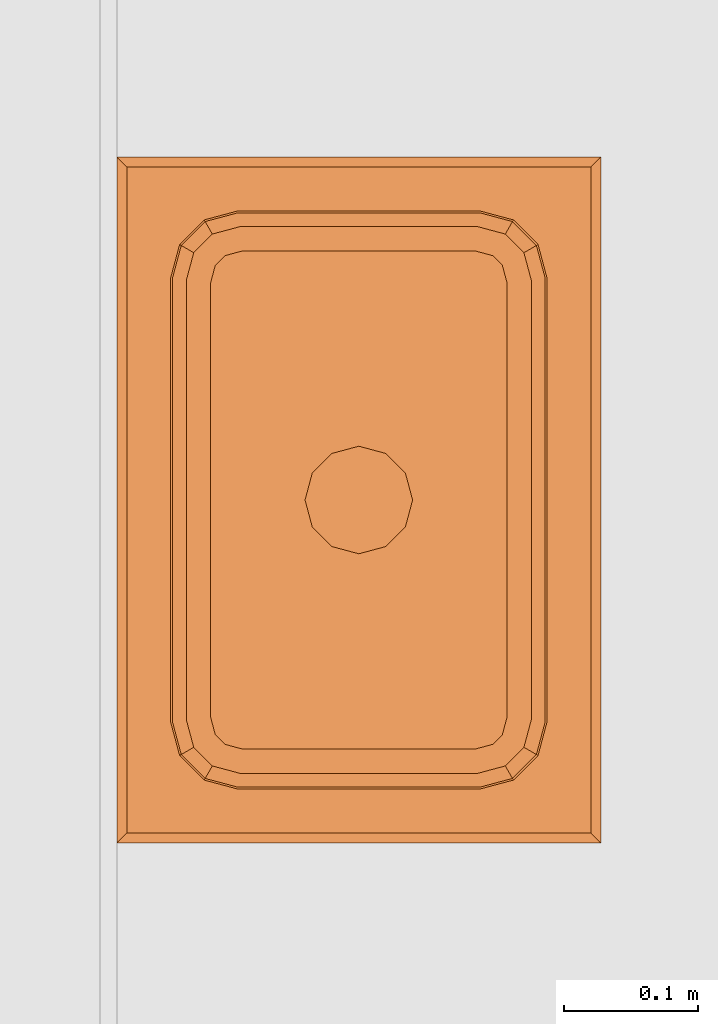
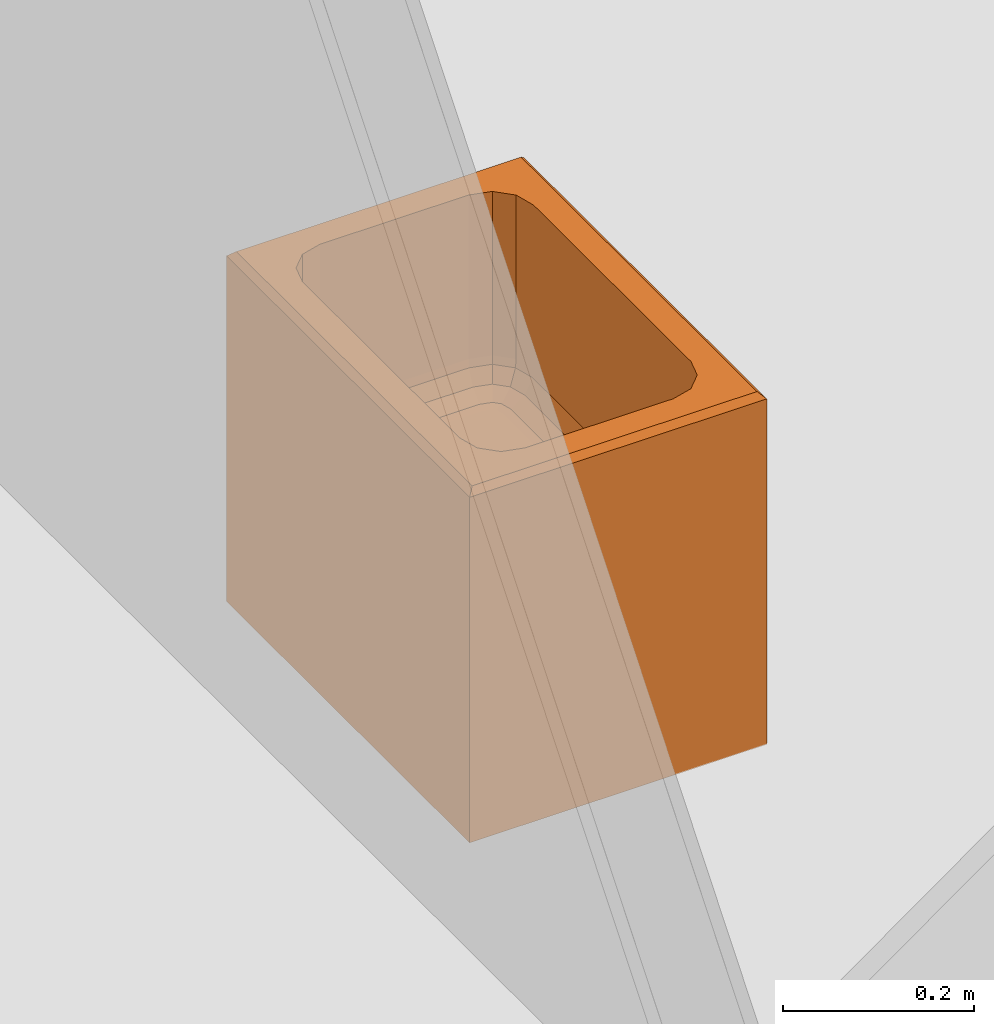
# One storey, part 118 of 167: 1 proxy.
"""IFC2X3 building model written with IfcOpenShell, lengths in millimetres."""

from ifc_helpers import new_model, entity, si_unit, converted_unit, derived_unit, money_unit, direction, frame, origin_with_axes, place, context, subcontext, project, spatial, faceted_brep, source, transform, mapped, type_object, type_shapes, element, save


model = new_model("IFC2X3")

# Units and contexts
model_context = context("Model", 3, precision=0.01, world=origin_with_axes(), true_north=direction((0.0, 1.0)))
plan_context = context("Plan", 3, precision=0.01, world=origin_with_axes(), true_north=direction((0.0, 1.0)))
body_context = subcontext(model_context, "Body", "Model", "MODEL_VIEW")
ifc_project = project(units=[si_unit("LENGTHUNIT", "METRE", prefix="MILLI"), si_unit("AREAUNIT", "SQUARE_METRE"), si_unit("VOLUMEUNIT", "CUBIC_METRE"), converted_unit("PLANEANGLEUNIT", "DEGREE", entity("IfcPlaneAngleMeasure", 0.0174532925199), si_unit("PLANEANGLEUNIT", "RADIAN"), dimensions=[0, 0, 0, 0, 0, 0, 0]), si_unit("SOLIDANGLEUNIT", "STERADIAN"), money_unit("EUR"), converted_unit("TIMEUNIT", "Year", entity("IfcTimeMeasure", 31556926.0), si_unit("TIMEUNIT", "SECOND"), dimensions=[0, 0, 1, 0, 0, 0, 0]), si_unit("MASSUNIT", "GRAM", prefix="KILO"), si_unit("THERMODYNAMICTEMPERATUREUNIT", "DEGREE_CELSIUS"), si_unit("LUMINOUSINTENSITYUNIT", "LUMEN"), si_unit("ENERGYUNIT", "JOULE", prefix="MEGA"), derived_unit("THERMALCONDUCTANCEUNIT", [(si_unit("POWERUNIT", "WATT"), 1), (si_unit("LENGTHUNIT", "METRE"), -1), (si_unit("THERMODYNAMICTEMPERATUREUNIT", "KELVIN"), -1)]), derived_unit("SPECIFICHEATCAPACITYUNIT", [(si_unit("ENERGYUNIT", "JOULE"), 1), (si_unit("MASSUNIT", "GRAM", prefix="KILO"), -1), (si_unit("THERMODYNAMICTEMPERATUREUNIT", "KELVIN"), -1)]), derived_unit("MASSDENSITYUNIT", [(si_unit("MASSUNIT", "GRAM", prefix="KILO"), 1), (si_unit("VOLUMEUNIT", "CUBIC_METRE"), -1)])], contexts=[model_context, plan_context])

# Site, building, storey
site_placement = place(None, origin_with_axes())
site = spatial("IfcSite", under=ifc_project, at=site_placement, Name="Site", CompositionType="ELEMENT")
building_placement = place(site_placement, origin_with_axes())
building = spatial("IfcBuilding", under=site, at=building_placement, Name="Naam gebouw", CompositionType="ELEMENT")
storey_placement = place(building_placement, origin_with_axes())
storey = spatial("IfcBuildingStorey", under=building, at=storey_placement, Name="Begane grond", CompositionType="ELEMENT", Elevation=0.0)

# Proxy
building_element_proxy_type = type_object("IfcBuildingElementProxyType", Name="Uitstortgootsteen 24", PredefinedType="NOTDEFINED")
shared_shape = source(origin_with_axes(), body_context, "Body", "Brep", [
    faceted_brep([(172.438247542, -85.7055238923, 199.999999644), (169.29447672, -82.5617519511, 199.999999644), (159.733901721, -80.0000052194, 199.999999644), (-159.733901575, -80.0000052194, 199.999999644), (-169.294476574, -82.5617519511, 199.999999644), (-172.438247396, -85.7055238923, 199.999999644), (-174.999997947, -95.2661013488, 199.999999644), (-174.999997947, -264.733896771, 199.999999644), (-172.438247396, -274.29447672, 199.999999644), (-169.294476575, -277.438247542, 199.999999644), (-159.733896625, -279.999998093, 199.999999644), (159.733896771, -279.999998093, 199.999999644), (169.29447672, -277.438247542, 199.999999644), (172.438247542, -274.29447672, 199.999999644), (174.999998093, -264.733896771, 199.999999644), (174.999998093, -95.2661013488, 199.999999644), (-35.0, -119.378221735, 200.0), (0.0, -110.0, 200.0), (35.0, -119.378221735, 200.0), (60.6217782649, -145.0, 200.0), (70.0, -180.0, 200.0), (60.6217782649, -215.0, 200.0), (35.0, -240.621778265, 200.0), (0.0, -250.0, 200.0), (-35.0, -240.621778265, 200.0), (-60.6217782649, -215.0, 200.0), (-70.0, -180.0, 200.0), (-60.6217782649, -145.0, 200.0), (181.720281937, -80.3465390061, 201.362966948), (174.653462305, -73.2797168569, 201.362966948), (161.096868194, -69.6472407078, 201.362966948), (-161.096868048, -69.6472407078, 201.362966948), (-174.653462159, -73.2797168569, 201.362966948), (-181.720281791, -80.3465390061, 201.362966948), (-185.352762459, -93.9031332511, 201.362966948), (-185.352762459, -266.096864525, 201.362966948), (-181.720281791, -279.653462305, 201.362966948), (-174.653462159, -286.720281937, 201.362966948), (-161.096864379, -290.352762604, 201.362966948), (161.096864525, -290.352762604, 201.362966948), (174.653462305, -286.720281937, 201.362966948), (181.720281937, -279.653462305, 201.362966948), (185.352762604, -266.096864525, 201.362966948), (185.352762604, -93.9031332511, 201.362966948), (-20.0, -145.358983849, 190.0), (0.0, -140.0, 190.0), (20.0, -145.358983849, 190.0), (34.6410161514, -160.0, 190.0), (40.0, -180.0, 190.0), (34.6410161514, -200.0, 190.0), (20.0, -214.641016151, 190.0), (0.0, -220.0, 190.0), (-20.0, -214.641016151, 190.0), (-34.6410161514, -200.0, 190.0), (-40.0, -180.0, 190.0), (-34.6410161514, -160.0, 190.0), (197.797232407, -71.06450762, 211.715728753), (183.935494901, -57.2027651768, 211.715728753), (163.457594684, -51.7157318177, 211.715728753), (-163.457594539, -51.7157318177, 211.715728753), (-183.935494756, -57.2027651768, 211.715728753), (-197.797232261, -71.06450762, 211.715728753), (-203.284271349, -91.5424039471, 211.715728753), (-203.284271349, -268.457593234, 211.715728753), (-197.797232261, -288.935494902, 211.715728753), (-183.935494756, -302.797232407, 211.715728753), (-163.457593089, -308.284271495, 211.715728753), (163.457593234, -308.284271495, 211.715728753), (183.935494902, -302.797232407, 211.715728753), (197.797232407, -288.935494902, 211.715728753), (203.284271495, -268.457593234, 211.715728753), (203.284271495, -91.5424039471, 211.715728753), (207.07926454, -65.7055240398, 229.647238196), (189.29447918, -47.9207323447, 229.647238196), (164.820560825, -41.3629698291, 229.647238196), (-164.82056068, -41.3629698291, 229.647238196), (-189.294479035, -47.9207323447, 229.647238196), (-207.079264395, -65.7055240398, 229.647238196), (-213.637033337, -90.1794361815, 229.647238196), (-213.637033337, -269.820560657, 229.647238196), (-207.079264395, -294.29447918, 229.647238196), (-189.294479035, -312.07926454, 229.647238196), (-164.820560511, -318.637033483, 229.647238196), (164.820560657, -318.637033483, 229.647238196), (189.29447918, -312.07926454, 229.647238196), (207.07926454, -294.29447918, 229.647238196), (213.637033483, -269.820560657, 229.647238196), (213.637033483, -90.1794361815, 229.647238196), (208.301267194, -65.0000005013, 240.0), (190.000002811, -46.6987295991, 240.0), (164.999998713, -40.0000029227, 240.0), (-164.999998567, -40.0000029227, 240.0), (-190.000002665, -46.6987295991, 240.0), (-208.301267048, -65.0000005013, 240.0), (-215.000000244, -89.9999980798, 240.0), (-215.000000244, -269.999998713, 240.0), (-208.301267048, -295.000002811, 240.0), (-190.000002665, -313.301267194, 240.0), (-164.999998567, -320.00000039, 240.0), (164.999998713, -320.00000039, 240.0), (190.000002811, -313.301267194, 240.0), (208.301267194, -295.000002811, 240.0), (215.00000039, -269.999998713, 240.0), (215.00000039, -89.9999980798, 240.0), (208.301267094, -65.0000004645, 450.000000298), (190.000002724, -46.6987296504, 450.000000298), (164.999998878, -40.0000030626, 450.000000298), (-164.999998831, -40.0000030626, 450.000000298), (-190.000002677, -46.6987296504, 450.000000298), (-208.301267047, -65.0000004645, 450.000000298), (-215.000000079, -89.9999978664, 450.000000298), (-215.000000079, -269.999998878, 450.000000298), (-208.301267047, -295.000002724, 450.000000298), (-190.000002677, -313.301267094, 450.000000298), (-164.999998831, -320.000000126, 450.000000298), (164.999998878, -320.000000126, 450.000000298), (190.000002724, -313.301267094, 450.000000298), (208.301267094, -295.000002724, 450.000000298), (215.000000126, -269.999998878, 450.000000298), (215.000000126, -89.9999978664, 450.000000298), (-247.50000002, -7.50000035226, 450.000000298), (-247.50000002, -352.500000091, 450.000000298), (247.500000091, -352.500000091, 450.000000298), (247.500000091, -7.50000035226, 450.000000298), (-255.000000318, -5.42402234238e-08, 442.5), (-255.000000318, -360.00000039, 442.5), (255.00000039, -360.00000039, 442.5), (255.00000039, -5.42402234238e-08, 442.5), (-255.0, 0.0, 100.0), (-255.0, -360.0, 100.0), (255.0, -360.0, 100.0), (255.0, 0.0, 100.0)], [[[0, 1, 2, 3, 4, 5, 6, 7, 8, 9, 10, 11, 12, 13, 14, 15], [16, 17, 18, 19, 20, 21, 22, 23, 24, 25, 26, 27]], [[1, 0, 28, 29]], [[2, 1, 29, 30]], [[3, 2, 30, 31]], [[4, 3, 31, 32]], [[5, 4, 32, 33]], [[6, 5, 33, 34]], [[7, 6, 34, 35]], [[8, 7, 35, 36]], [[9, 8, 36, 37]], [[10, 9, 37, 38]], [[11, 10, 38, 39]], [[12, 11, 39, 40]], [[13, 12, 40, 41]], [[14, 13, 41, 42]], [[15, 14, 42, 43]], [[0, 15, 43, 28]], [[16, 44, 45, 17]], [[17, 45, 46, 18]], [[18, 46, 47, 19]], [[19, 47, 48, 20]], [[20, 48, 49, 21]], [[21, 49, 50, 22]], [[22, 50, 51, 23]], [[23, 51, 52, 24]], [[24, 52, 53, 25]], [[25, 53, 54, 26]], [[26, 54, 55, 27]], [[27, 55, 44, 16]], [[29, 28, 56, 57]], [[30, 29, 57, 58]], [[31, 30, 58, 59]], [[32, 31, 59, 60]], [[33, 32, 60, 61]], [[34, 33, 61, 62]], [[35, 34, 62, 63]], [[36, 35, 63, 64]], [[37, 36, 64, 65]], [[38, 37, 65, 66]], [[39, 38, 66, 67]], [[40, 39, 67, 68]], [[41, 40, 68, 69]], [[42, 41, 69, 70]], [[43, 42, 70, 71]], [[28, 43, 71, 56]], [[53, 52, 51, 50, 49, 48, 47, 46, 45, 44, 55, 54]], [[57, 56, 72, 73]], [[58, 57, 73, 74]], [[59, 58, 74, 75]], [[60, 59, 75, 76]], [[61, 60, 76, 77]], [[62, 61, 77, 78]], [[63, 62, 78, 79]], [[64, 63, 79, 80]], [[65, 64, 80, 81]], [[66, 65, 81, 82]], [[67, 66, 82, 83]], [[68, 67, 83, 84]], [[69, 68, 84, 85]], [[70, 69, 85, 86]], [[71, 70, 86, 87]], [[56, 71, 87, 72]], [[73, 72, 88, 89]], [[74, 73, 89, 90]], [[75, 74, 90, 91]], [[76, 75, 91, 92]], [[77, 76, 92, 93]], [[78, 77, 93, 94]], [[79, 78, 94, 95]], [[80, 79, 95, 96]], [[81, 80, 96, 97]], [[82, 81, 97, 98]], [[83, 82, 98, 99]], [[84, 83, 99, 100]], [[85, 84, 100, 101]], [[86, 85, 101, 102]], [[87, 86, 102, 103]], [[72, 87, 103, 88]], [[89, 88, 104, 105]], [[90, 89, 105, 106]], [[91, 90, 106, 107]], [[92, 91, 107, 108]], [[93, 92, 108, 109]], [[94, 93, 109, 110]], [[95, 94, 110, 111]], [[96, 95, 111, 112]], [[97, 96, 112, 113]], [[98, 97, 113, 114]], [[99, 98, 114, 115]], [[100, 99, 115, 116]], [[101, 100, 116, 117]], [[102, 101, 117, 118]], [[103, 102, 118, 119]], [[88, 103, 119, 104]], [[120, 121, 122, 123], [107, 106, 105, 104, 119, 118, 117, 116, 115, 114, 113, 112, 111, 110, 109, 108]], [[120, 124, 125, 121]], [[121, 125, 126, 122]], [[122, 126, 127, 123]], [[123, 127, 124, 120]], [[124, 128, 129, 125]], [[125, 129, 130, 126]], [[126, 130, 131, 127]], [[127, 131, 128, 124]], [[129, 128, 131, 130]]]),
    faceted_brep([(255.0, 0.0, 0.0), (255.0, 0.0, 100.0), (255.0, -360.0, 100.0), (255.0, -360.0, 0.0), (-255.0, 0.0, 0.0), (-255.0, 0.0, 100.0), (-255.0, -360.0, 100.0), (225.0, -30.0, 100.0), (225.0, -330.0, 100.0), (-225.0, -330.0, 100.0), (-225.0, -30.0, 100.0), (-255.0, -360.0, 0.0), (225.0, -30.0, 0.0), (-225.0, -30.0, 0.0), (-225.0, -330.0, 0.0), (225.0, -330.0, 0.0)], [[[0, 1, 2, 3]], [[4, 5, 1, 0]], [[1, 5, 6, 2], [7, 8, 9, 10]], [[3, 2, 6, 11]], [[0, 3, 11, 4], [12, 13, 14, 15]], [[11, 6, 5, 4]], [[15, 8, 7, 12]], [[14, 9, 8, 15]], [[13, 10, 9, 14]], [[12, 7, 10, 13]]]),
    faceted_brep([(-34.6410161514, -200.0, 190.0), (-40.0, -180.0, 190.0), (-34.6410161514, -160.0, 190.0), (-20.0, -145.358983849, 190.0), (0.0, -140.0, 190.0), (20.0, -145.358983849, 190.0), (34.6410161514, -160.0, 190.0), (40.0, -180.0, 190.0), (34.6410161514, -200.0, 190.0), (20.0, -214.641016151, 190.0), (0.0, -220.0, 190.0), (-20.0, -214.641016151, 190.0), (-34.6410161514, -200.0, 200.0), (-40.0, -180.0, 200.0), (-34.6410161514, -160.0, 200.0), (-20.0, -145.358983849, 200.0), (0.0, -140.0, 200.0), (20.0, -145.358983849, 200.0), (34.6410161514, -160.0, 200.0), (40.0, -180.0, 200.0), (34.6410161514, -200.0, 200.0), (20.0, -214.641016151, 200.0), (0.0, -220.0, 200.0), (-20.0, -214.641016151, 200.0)], [[[0, 1, 2, 3, 4, 5, 6, 7, 8, 9, 10, 11]], [[0, 12, 13, 1]], [[1, 13, 14, 2]], [[2, 14, 15, 3]], [[3, 15, 16, 4]], [[4, 16, 17, 5]], [[5, 17, 18, 6]], [[6, 18, 19, 7]], [[7, 19, 20, 8]], [[8, 20, 21, 9]], [[9, 21, 22, 10]], [[10, 22, 23, 11]], [[11, 23, 12, 0]], [[12, 23, 22, 21, 20, 19, 18, 17, 16, 15, 14, 13]]]),
])
type_shapes(building_element_proxy_type, [shared_shape])
proxy_placement = place(storey_placement, frame((30462.9999994, 32460.9995423, 0.0), z_axis=(0.0, 0.0, 1.0), x_axis=(0.0, 1.0, 0.0)))
element("IfcBuildingElementProxy", 1, at=proxy_placement, inside=storey, type_object=building_element_proxy_type, Name="__FU - 003", context=body_context, shape_type="MappedRepresentation", body=[
    mapped(shared_shape, transform((0.0, 0.0, 0.0))),
])

save(model, "model.ifc")
